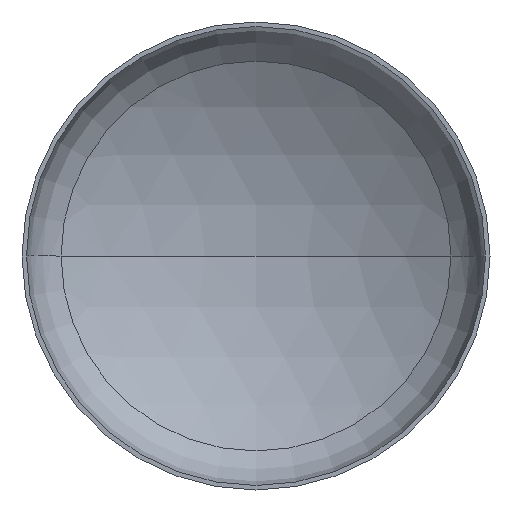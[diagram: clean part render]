
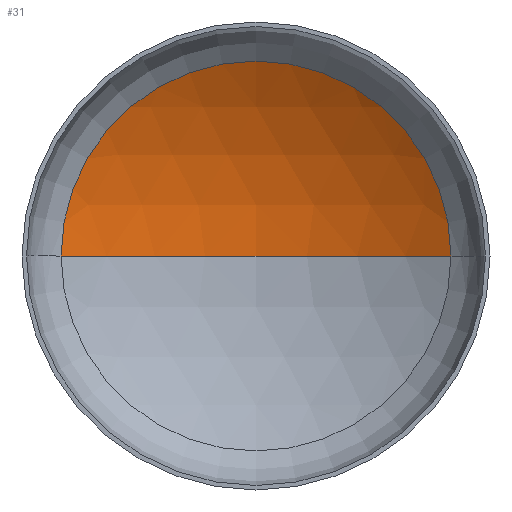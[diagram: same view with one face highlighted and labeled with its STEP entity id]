
A CAD part, front view. The second image highlights one B-rep face of the part: STEP entity #31.
In plain terms, the highlighted spherical face has radius 1920 mm.
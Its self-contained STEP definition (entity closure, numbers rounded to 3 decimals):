
#22 = AXIS2_PLACEMENT_3D ( 'NONE', #167, #171, #60 ) ;
#26 = CIRCLE ( 'NONE', #32, 999.639 ) ;
#27 = AXIS2_PLACEMENT_3D ( 'NONE', #301, #299, #295 ) ;
#29 = EDGE_LOOP ( 'NONE', ( #233, #192, #41 ) ) ;
#31 = ADVANCED_FACE ( 'NONE', ( #229 ), #74, .F. ) ;
#32 = AXIS2_PLACEMENT_3D ( 'NONE', #288, #281, #156 ) ;
#41 = ORIENTED_EDGE ( 'NONE', *, *, #54, .T. ) ;
#43 = AXIS2_PLACEMENT_3D ( 'NONE', #354, #277, #278 ) ;
#54 = EDGE_CURVE ( 'NONE', #254, #98, #26, .T. ) ;
#56 = EDGE_CURVE ( 'NONE', #185, #254, #361, .T. ) ;
#58 = EDGE_CURVE ( 'NONE', #185, #98, #294, .T. ) ;
#60 = DIRECTION ( 'NONE',  ( 1., 0., 0. ) ) ;
#74 = SPHERICAL_SURFACE ( 'NONE', #43, 1920. ) ;
#98 = VERTEX_POINT ( 'NONE', #402 ) ;
#132 = CARTESIAN_POINT ( 'NONE',  ( 999.639, 385.896, 0. ) ) ;
#156 = DIRECTION ( 'NONE',  ( 1., 0., 0. ) ) ;
#167 = CARTESIAN_POINT ( 'NONE',  ( 0., -1253.348, 0. ) ) ;
#171 = DIRECTION ( 'NONE',  ( 0., 0., 1. ) ) ;
#185 = VERTEX_POINT ( 'NONE', #236 ) ;
#192 = ORIENTED_EDGE ( 'NONE', *, *, #56, .T. ) ;
#229 = FACE_OUTER_BOUND ( 'NONE', #29, .T. ) ;
#233 = ORIENTED_EDGE ( 'NONE', *, *, #58, .F. ) ;
#236 = CARTESIAN_POINT ( 'NONE',  ( 0., 666.652, 0. ) ) ;
#254 = VERTEX_POINT ( 'NONE', #132 ) ;
#277 = DIRECTION ( 'NONE',  ( 0., 0., -1. ) ) ;
#278 = DIRECTION ( 'NONE',  ( -1., 0., 0. ) ) ;
#281 = DIRECTION ( 'NONE',  ( 0., -1., 0. ) ) ;
#288 = CARTESIAN_POINT ( 'NONE',  ( 0., 385.896, 0. ) ) ;
#294 = CIRCLE ( 'NONE', #22, 1920. ) ;
#295 = DIRECTION ( 'NONE',  ( -1., 0., 0. ) ) ;
#299 = DIRECTION ( 'NONE',  ( 0., 0., -1. ) ) ;
#301 = CARTESIAN_POINT ( 'NONE',  ( 0., -1253.348, 0. ) ) ;
#354 = CARTESIAN_POINT ( 'NONE',  ( 0., -1253.348, 0. ) ) ;
#361 = CIRCLE ( 'NONE', #27, 1920. ) ;
#402 = CARTESIAN_POINT ( 'NONE',  ( -999.639, 385.896, 0. ) ) ;
